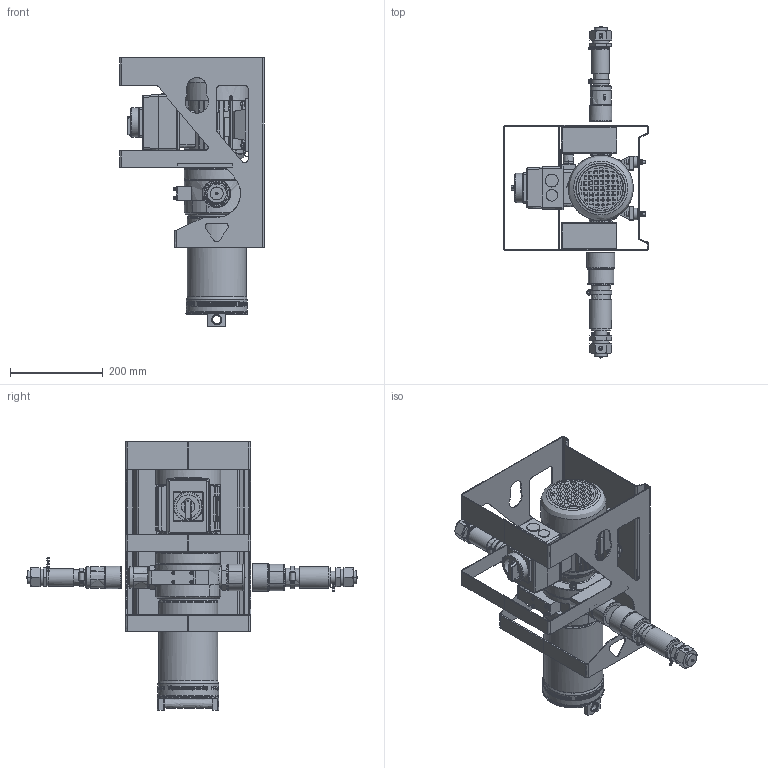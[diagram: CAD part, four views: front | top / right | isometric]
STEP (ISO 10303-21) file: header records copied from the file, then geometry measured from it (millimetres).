
FILE_DESCRIPTION((''),'2;1');
FILE_NAME('U:\Users\r.stiegele\FA003-2341.stp','2014-02-14T15:05:04', ('User'),('SDRC'),'I-DEAS Master Series 9','UNIX','Yes');
FILE_SCHEMA(('AUTOMOTIVE_DESIGN { 1 0 10303 214 1 1 1 1 }'));
Length unit declared in the file: millimetre
Products named in the file (1): 14487101
Bounding box: 313.22 x 717.66 x 580.15 mm (x, y, z)
Volume: 9327665.9 mm3; surface area: 1145829 mm2
Topology: 17 solids, 40 shells, 3280 faces, 8037 edges, 4970 vertices
Faces by surface type: bspline 3280
Entity records: 120663 total; most frequent: CARTESIAN_POINT 74609, ORIENTED_EDGE 15962, EDGE_CURVE 7981, VERTEX_POINT 4969, EDGE_LOOP 3590, FACE_OUTER_BOUND 3280, ADVANCED_FACE 3280, B_SPLINE_CURVE_WITH_KNOTS 2618
